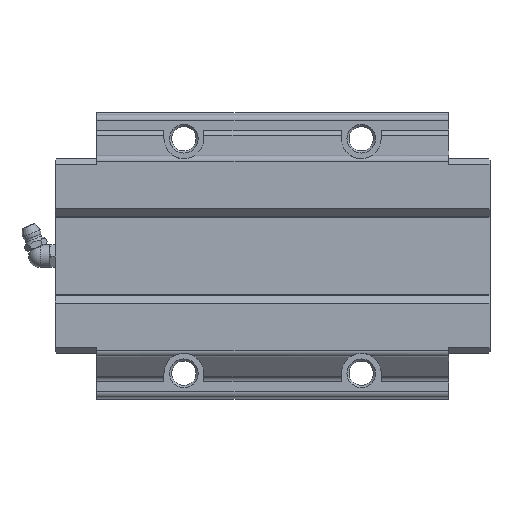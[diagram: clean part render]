
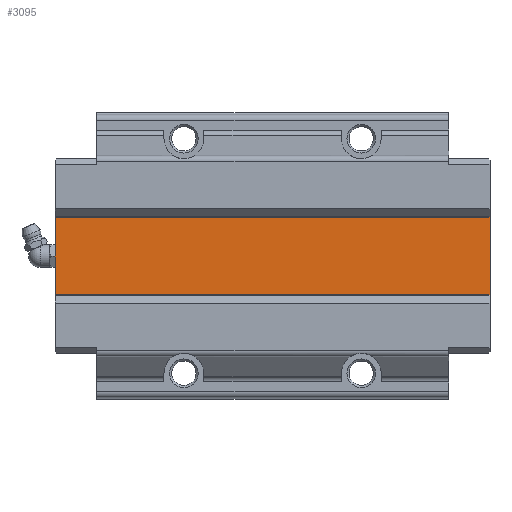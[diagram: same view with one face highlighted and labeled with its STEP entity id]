
A CAD part, front view. The second image highlights one B-rep face of the part: STEP entity #3095.
In plain terms, the highlighted planar face has unit normal (0, -1, 0).
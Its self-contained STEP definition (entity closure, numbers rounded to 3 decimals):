
#83=LINE('',#4653,#353);
#125=LINE('',#4773,#395);
#300=LINE('',#5350,#570);
#301=LINE('',#5352,#571);
#353=VECTOR('',#3648,1000.);
#395=VECTOR('',#3742,1000.);
#570=VECTOR('',#4253,1000.);
#571=VECTOR('',#4256,1000.);
#661=PLANE('',#3414);
#1653=ORIENTED_EDGE('',*,*,#1882,.F.);
#1654=ORIENTED_EDGE('',*,*,#2135,.F.);
#1655=ORIENTED_EDGE('',*,*,#1821,.T.);
#1656=ORIENTED_EDGE('',*,*,#2136,.T.);
#1821=EDGE_CURVE('',#2228,#2227,#83,.T.);
#1882=EDGE_CURVE('',#2279,#2280,#125,.T.);
#2135=EDGE_CURVE('',#2228,#2279,#300,.T.);
#2136=EDGE_CURVE('',#2227,#2280,#301,.T.);
#2227=VERTEX_POINT('',#4652);
#2228=VERTEX_POINT('',#4654);
#2279=VERTEX_POINT('',#4772);
#2280=VERTEX_POINT('',#4774);
#2671=EDGE_LOOP('',(#1653,#1654,#1655,#1656));
#2890=FACE_BOUND('',#2671,.T.);
#3095=ADVANCED_FACE('',(#2890),#661,.T.);
#3414=AXIS2_PLACEMENT_3D('',#5351,#4254,#4255);
#3648=DIRECTION('',(0.,0.,1.));
#3742=DIRECTION('',(0.,0.,1.));
#4253=DIRECTION('',(-1.,0.,0.));
#4254=DIRECTION('',(0.,-1.,0.));
#4255=DIRECTION('',(0.,0.,-1.));
#4256=DIRECTION('',(-1.,0.,0.));
#4652=CARTESIAN_POINT('',(76.,18.5,14.018));
#4653=CARTESIAN_POINT('',(76.,18.5,-14.018));
#4654=CARTESIAN_POINT('',(76.,18.5,-14.018));
#4772=CARTESIAN_POINT('',(-76.,18.5,-14.018));
#4773=CARTESIAN_POINT('',(-76.,18.5,-14.018));
#4774=CARTESIAN_POINT('',(-76.,18.5,14.018));
#5350=CARTESIAN_POINT('',(76.,18.5,-14.018));
#5351=CARTESIAN_POINT('',(76.,18.5,-14.018));
#5352=CARTESIAN_POINT('',(76.,18.5,14.018));
